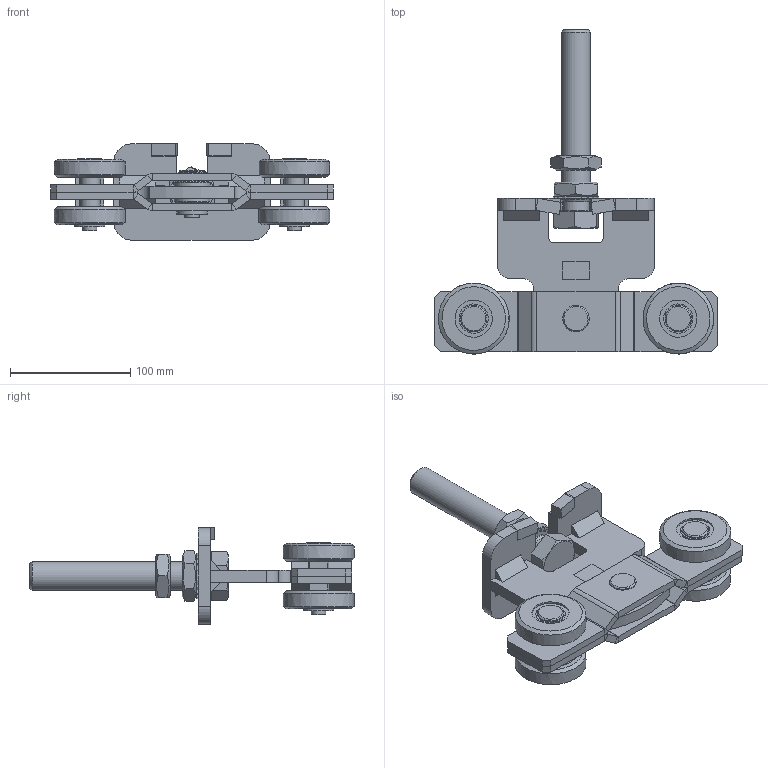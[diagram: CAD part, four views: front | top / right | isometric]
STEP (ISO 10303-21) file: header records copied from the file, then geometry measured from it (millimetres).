
FILE_DESCRIPTION(/* description */ ('Doppelrolle Nr.4'),/* implementation_level */ '2;1');
FILE_NAME(/* name */ 'Q:\sge-ma\Produktmanagement-STB\STB\Workspace\stp\010336440.stp',/* time_stamp */ '2015-07-10T08:44:32+02:00',/* author */ ('avschreier'),/* organization */ (''),/* preprocessor_version */ 'ST-DEVELOPER v15.6',/* originating_system */ 'Autodesk Inventor 2015',/* authorisation */ '');
FILE_SCHEMA (('CONFIG_CONTROL_DESIGN'));
Length unit declared in the file: millimetre
Products named in the file (16): 010336440_Schweißnähte; 000302041; 000302034; 000302080; 000302042; 000302020; 337000287; DIN_625-6203_ZZ_en; 000303241; 000302018; DIN_1440-12_en; DIN_6798-A_25_en; DIN_EN_ISO_4017-M24x150_en; DIN_EN_ISO_4035-M24x2_en; DIN_6916-17_en; 010336440
Bounding box: 235 x 269.5 x 80 mm (x, y, z)
Volume: 590274.3 mm3; surface area: 217402.6 mm2
Topology: 36 solids, 40 shells, 776 faces, 2035 edges, 1316 vertices
Faces by surface type: plane 421, cylinder 212, torus 72, cone 39, sphere 28, bspline 4
Full cylindrical faces by diameter (mm): 12 x6, 16.9 x3, 17 x6, 17.2 x2, 17.3 x1, 21.835 x2, 22 x3, 22.376 x1, 24 x1, 24.36 x16, 25 x4, 30 x2, 31 x4, 32.64 x16, 33.2 x1, 40 x8
Entity records: 13120 total; most frequent: CARTESIAN_POINT 2908, DIRECTION 2134, ORIENTED_EDGE 1954, EDGE_CURVE 977, AXIS2_PLACEMENT_3D 784, VERTEX_POINT 658, LINE 566, VECTOR 566
